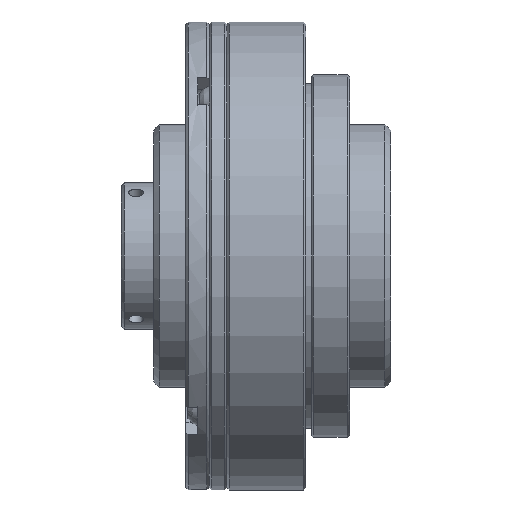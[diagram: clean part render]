
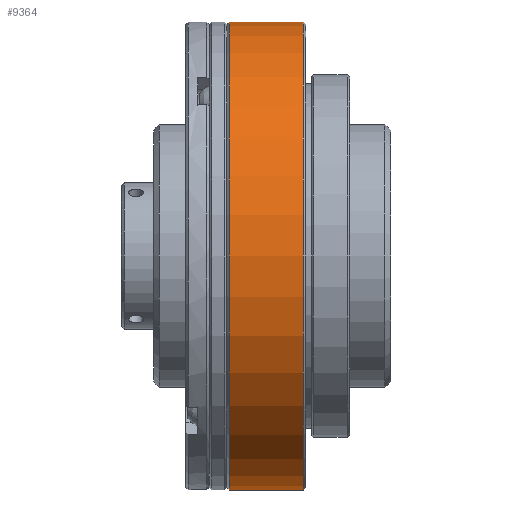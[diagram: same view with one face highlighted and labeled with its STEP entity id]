
A CAD part, front view. The second image highlights one B-rep face of the part: STEP entity #9364.
In plain terms, the highlighted cylindrical face has radius 40 mm (diameter 80 mm), a full revolution.
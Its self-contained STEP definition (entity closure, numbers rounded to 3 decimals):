
#919 = EDGE_CURVE ( 'NONE', #29728, #29728, #3752, .T. ) ;
#1239 = ORIENTED_EDGE ( 'NONE', *, *, #9588, .T. ) ;
#1735 = FACE_OUTER_BOUND ( 'NONE', #18428, .T. ) ;
#1982 = EDGE_LOOP ( 'NONE', ( #1239 ) ) ;
#2474 = CARTESIAN_POINT ( 'NONE',  ( -1.7, 0., 0. ) ) ;
#3752 = CIRCLE ( 'NONE', #29523, 40. ) ;
#4728 = VERTEX_POINT ( 'NONE', #33230 ) ;
#6368 = DIRECTION ( 'NONE',  ( 0., -0.5, 0.866 ) ) ;
#8935 = CIRCLE ( 'NONE', #14951, 40. ) ;
#9364 = ADVANCED_FACE ( 'NONE', ( #1735, #22361 ), #24801, .T. ) ;
#9588 = EDGE_CURVE ( 'NONE', #4728, #4728, #8935, .T. ) ;
#11772 = ORIENTED_EDGE ( 'NONE', *, *, #919, .T. ) ;
#12936 = DIRECTION ( 'NONE',  ( 1., 0., 0. ) ) ;
#14158 = DIRECTION ( 'NONE',  ( 0., -0.5, 0.866 ) ) ;
#14951 = AXIS2_PLACEMENT_3D ( 'NONE', #15768, #12936, #6368 ) ;
#15768 = CARTESIAN_POINT ( 'NONE',  ( -7., 0., 0. ) ) ;
#16005 = DIRECTION ( 'NONE',  ( -1., 0., 0. ) ) ;
#18428 = EDGE_LOOP ( 'NONE', ( #11772 ) ) ;
#22361 = FACE_OUTER_BOUND ( 'NONE', #1982, .T. ) ;
#23342 = AXIS2_PLACEMENT_3D ( 'NONE', #2474, #16005, #27785 ) ;
#24801 = CYLINDRICAL_SURFACE ( 'NONE', #23342, 40. ) ;
#27785 = DIRECTION ( 'NONE',  ( 0., -0.5, 0.866 ) ) ;
#29362 = CARTESIAN_POINT ( 'NONE',  ( 5.7, -20., 34.641 ) ) ;
#29523 = AXIS2_PLACEMENT_3D ( 'NONE', #30839, #37033, #14158 ) ;
#29728 = VERTEX_POINT ( 'NONE', #29362 ) ;
#30839 = CARTESIAN_POINT ( 'NONE',  ( 5.7, 0., 0. ) ) ;
#33230 = CARTESIAN_POINT ( 'NONE',  ( -7., -20., 34.641 ) ) ;
#37033 = DIRECTION ( 'NONE',  ( -1., 0., 0. ) ) ;
